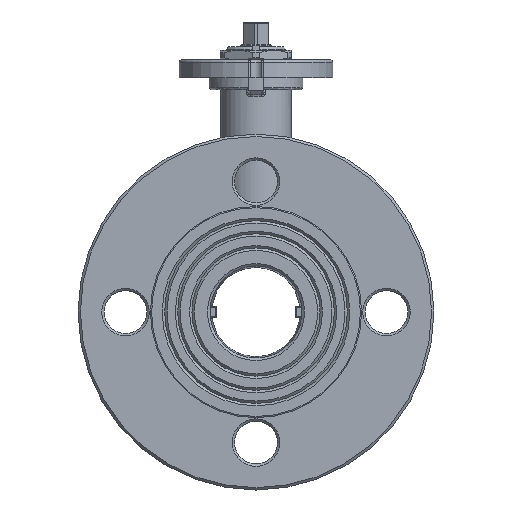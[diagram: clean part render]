
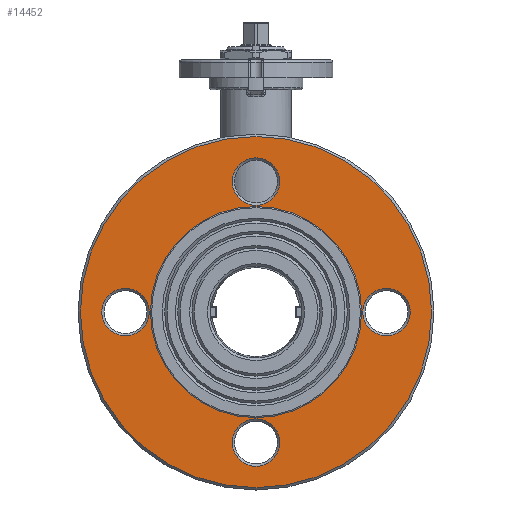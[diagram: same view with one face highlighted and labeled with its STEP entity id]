
A CAD part, left-side view. The second image highlights one B-rep face of the part: STEP entity #14452.
In plain terms, the highlighted planar face has unit normal (-1, 0, 0) as drawn and (0, 0, 1) by its records, which use the part's own axes.
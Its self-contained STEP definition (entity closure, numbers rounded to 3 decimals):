
#1402=PLANE('',#15818);
#3910=FACE_BOUND('',#5778,.T.);
#3911=FACE_BOUND('',#5779,.T.);
#3912=FACE_BOUND('',#5780,.T.);
#3913=FACE_BOUND('',#5781,.T.);
#3914=FACE_BOUND('',#5782,.T.);
#4735=FACE_OUTER_BOUND('',#5777,.T.);
#5777=EDGE_LOOP('',(#13393));
#5778=EDGE_LOOP('',(#13394));
#5779=EDGE_LOOP('',(#13395));
#5780=EDGE_LOOP('',(#13396));
#5781=EDGE_LOOP('',(#13397));
#5782=EDGE_LOOP('',(#13398));
#6424=CIRCLE('',#15817,10.);
#6425=CIRCLE('',#15819,74.);
#6426=CIRCLE('',#15820,10.);
#6427=CIRCLE('',#15821,10.);
#6428=CIRCLE('',#15822,30.5);
#6429=CIRCLE('',#15823,10.);
#7717=VERTEX_POINT('',#27860);
#7718=VERTEX_POINT('',#27863);
#7719=VERTEX_POINT('',#27865);
#7720=VERTEX_POINT('',#27867);
#7721=VERTEX_POINT('',#27869);
#7722=VERTEX_POINT('',#27871);
#9627=EDGE_CURVE('',#7717,#7717,#6424,.T.);
#9628=EDGE_CURVE('',#7718,#7718,#6425,.T.);
#9629=EDGE_CURVE('',#7719,#7719,#6426,.T.);
#9630=EDGE_CURVE('',#7720,#7720,#6427,.T.);
#9631=EDGE_CURVE('',#7721,#7721,#6428,.T.);
#9632=EDGE_CURVE('',#7722,#7722,#6429,.T.);
#13393=ORIENTED_EDGE('',*,*,#9628,.F.);
#13394=ORIENTED_EDGE('',*,*,#9629,.F.);
#13395=ORIENTED_EDGE('',*,*,#9630,.F.);
#13396=ORIENTED_EDGE('',*,*,#9631,.F.);
#13397=ORIENTED_EDGE('',*,*,#9632,.F.);
#13398=ORIENTED_EDGE('',*,*,#9627,.F.);
#14452=ADVANCED_FACE('',(#4735,#3910,#3911,#3912,#3913,#3914),#1402,.F.);
#15817=AXIS2_PLACEMENT_3D('',#27861,#19394,#19395);
#15818=AXIS2_PLACEMENT_3D('',#27862,#19396,#19397);
#15819=AXIS2_PLACEMENT_3D('',#27864,#19398,#19399);
#15820=AXIS2_PLACEMENT_3D('',#27866,#19400,#19401);
#15821=AXIS2_PLACEMENT_3D('',#27868,#19402,#19403);
#15822=AXIS2_PLACEMENT_3D('',#27870,#19404,#19405);
#15823=AXIS2_PLACEMENT_3D('',#27872,#19406,#19407);
#19394=DIRECTION('center_axis',(0.,0.,1.));
#19395=DIRECTION('ref_axis',(1.,0.,0.));
#19396=DIRECTION('center_axis',(0.,0.,-1.));
#19397=DIRECTION('ref_axis',(-1.,0.,0.));
#19398=DIRECTION('center_axis',(0.,0.,-1.));
#19399=DIRECTION('ref_axis',(-1.,0.,0.));
#19400=DIRECTION('center_axis',(0.,0.,1.));
#19401=DIRECTION('ref_axis',(1.,0.,0.));
#19402=DIRECTION('center_axis',(0.,0.,1.));
#19403=DIRECTION('ref_axis',(1.,0.,0.));
#19404=DIRECTION('center_axis',(0.,0.,1.));
#19405=DIRECTION('ref_axis',(-1.,0.,0.));
#19406=DIRECTION('center_axis',(0.,0.,1.));
#19407=DIRECTION('ref_axis',(1.,0.,0.));
#27860=CARTESIAN_POINT('',(-10.,-55.,16.));
#27861=CARTESIAN_POINT('Origin',(0.,-55.,16.));
#27862=CARTESIAN_POINT('Origin',(0.,0.,16.));
#27863=CARTESIAN_POINT('',(74.,0.,16.));
#27864=CARTESIAN_POINT('Origin',(0.,0.,16.));
#27865=CARTESIAN_POINT('',(45.,0.,16.));
#27866=CARTESIAN_POINT('Origin',(55.,0.,16.));
#27867=CARTESIAN_POINT('',(-65.,0.,16.));
#27868=CARTESIAN_POINT('Origin',(-55.,0.,16.));
#27869=CARTESIAN_POINT('',(30.5,0.,16.));
#27870=CARTESIAN_POINT('Origin',(0.,0.,16.));
#27871=CARTESIAN_POINT('',(-10.,55.,16.));
#27872=CARTESIAN_POINT('Origin',(0.,55.,16.));
